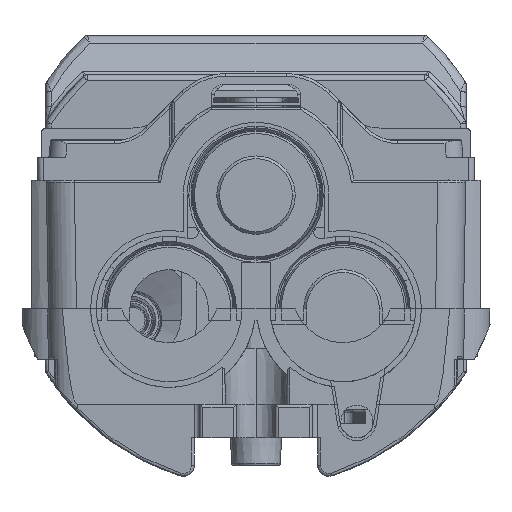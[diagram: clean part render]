
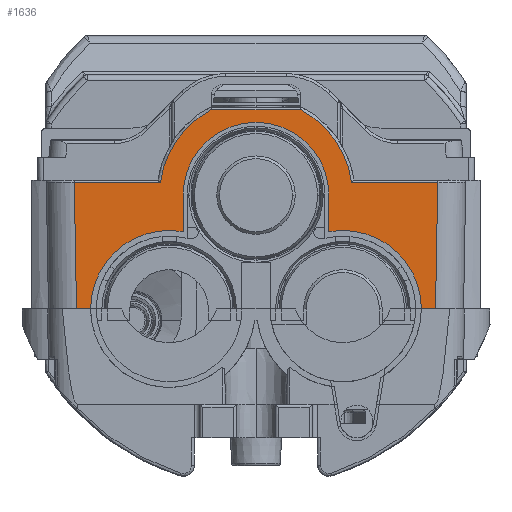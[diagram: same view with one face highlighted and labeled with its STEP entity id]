
A CAD part, left-side view. The second image highlights one B-rep face of the part: STEP entity #1636.
In plain terms, the highlighted planar face has unit normal (-1, 0, 0).
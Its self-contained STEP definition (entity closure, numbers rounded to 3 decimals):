
#584 = CARTESIAN_POINT ( 'NONE',  ( -325.383, -13., 54.3 ) ) ;
#629 = VERTEX_POINT ( 'NONE', #35940 ) ;
#1300 = ORIENTED_EDGE ( 'NONE', *, *, #13953, .T. ) ;
#1361 = ORIENTED_EDGE ( 'NONE', *, *, #15908, .T. ) ;
#1636 = ADVANCED_FACE ( 'NONE', ( #2152 ), #48414, .F. ) ;
#1878 = CIRCLE ( 'NONE', #2971, 14. ) ;
#1920 = ORIENTED_EDGE ( 'NONE', *, *, #13570, .T. ) ;
#2152 = FACE_OUTER_BOUND ( 'NONE', #25963, .T. ) ;
#2971 = AXIS2_PLACEMENT_3D ( 'NONE', #43110, #17925, #47167 ) ;
#6334 = DIRECTION ( 'NONE',  ( 0., 1., 0. ) ) ;
#6363 = CARTESIAN_POINT ( 'NONE',  ( -325.383, 37.029, 34. ) ) ;
#6385 = CIRCLE ( 'NONE', #13824, 17.2 ) ;
#7000 = CARTESIAN_POINT ( 'NONE',  ( -325.383, 0., 54.3 ) ) ;
#7769 = VERTEX_POINT ( 'NONE', #48519 ) ;
#8343 = EDGE_CURVE ( 'NONE', #7769, #24974, #27695, .T. ) ;
#9199 = VERTEX_POINT ( 'NONE', #37219 ) ;
#9380 = EDGE_CURVE ( 'NONE', #52580, #7769, #32947, .T. ) ;
#9964 = CARTESIAN_POINT ( 'NONE',  ( -325.383, -17.059, 56.5 ) ) ;
#10254 = CARTESIAN_POINT ( 'NONE',  ( -325.383, -32.74, 74.782 ) ) ;
#10402 = DIRECTION ( 'NONE',  ( -1., 0., 0. ) ) ;
#11083 = CARTESIAN_POINT ( 'NONE',  ( -325.383, -13., 54.3 ) ) ;
#11578 = DIRECTION ( 'NONE',  ( 0., 0., -1. ) ) ;
#11604 = CARTESIAN_POINT ( 'NONE',  ( -325.383, 32.762, 76.074 ) ) ;
#11785 = DIRECTION ( 'NONE',  ( 0., -0.017, -1. ) ) ;
#11929 = CARTESIAN_POINT ( 'NONE',  ( -325.383, 8.05, 69.5 ) ) ;
#12292 = CIRCLE ( 'NONE', #45615, 14. ) ;
#13570 = EDGE_CURVE ( 'NONE', #24974, #35626, #16326, .T. ) ;
#13740 = EDGE_CURVE ( 'NONE', #28091, #24337, #1878, .T. ) ;
#13810 = EDGE_CURVE ( 'NONE', #24337, #49829, #29768, .T. ) ;
#13823 = EDGE_CURVE ( 'NONE', #28091, #52580, #51800, .T. ) ;
#13824 = AXIS2_PLACEMENT_3D ( 'NONE', #7000, #37020, #11578 ) ;
#13932 = DIRECTION ( 'NONE',  ( 0., 0., 1. ) ) ;
#13953 = EDGE_CURVE ( 'NONE', #46712, #9199, #38237, .T. ) ;
#14123 = EDGE_CURVE ( 'NONE', #33833, #629, #19034, .T. ) ;
#14288 = VECTOR ( 'NONE', #6334, 1000. ) ;
#15438 = CARTESIAN_POINT ( 'NONE',  ( -325.383, 32.421, 56.5 ) ) ;
#15908 = EDGE_CURVE ( 'NONE', #17796, #46712, #20225, .T. ) ;
#16326 = CIRCLE ( 'NONE', #21687, 17.2 ) ;
#17104 = EDGE_CURVE ( 'NONE', #38619, #22537, #6385, .T. ) ;
#17618 = CARTESIAN_POINT ( 'NONE',  ( -325.383, 13., 54.3 ) ) ;
#17796 = VERTEX_POINT ( 'NONE', #15438 ) ;
#17925 = DIRECTION ( 'NONE',  ( -1., 0., 0. ) ) ;
#18185 = ORIENTED_EDGE ( 'NONE', *, *, #13740, .F. ) ;
#18292 = DIRECTION ( 'NONE',  ( 0., -1., 0. ) ) ;
#18393 = VECTOR ( 'NONE', #13932, 1000. ) ;
#19034 = LINE ( 'NONE', #25978, #20378 ) ;
#19554 = CARTESIAN_POINT ( 'NONE',  ( -325.383, 37.029, 69.5 ) ) ;
#19828 = CARTESIAN_POINT ( 'NONE',  ( -325.383, 37.029, 56.5 ) ) ;
#19957 = ORIENTED_EDGE ( 'NONE', *, *, #35020, .F. ) ;
#20225 = LINE ( 'NONE', #11604, #36809 ) ;
#20378 = VECTOR ( 'NONE', #55339, 1000. ) ;
#20655 = ORIENTED_EDGE ( 'NONE', *, *, #34958, .F. ) ;
#21003 = EDGE_CURVE ( 'NONE', #35626, #38619, #46507, .T. ) ;
#21088 = VECTOR ( 'NONE', #18292, 1000. ) ;
#21253 = CARTESIAN_POINT ( 'NONE',  ( -325.383, -32.028, 34. ) ) ;
#21565 = ORIENTED_EDGE ( 'NONE', *, *, #9380, .T. ) ;
#21614 = VECTOR ( 'NONE', #23194, 1000. ) ;
#21687 = AXIS2_PLACEMENT_3D ( 'NONE', #25305, #54614, #29537 ) ;
#22219 = DIRECTION ( 'NONE',  ( -1., 0., 0. ) ) ;
#22371 = ORIENTED_EDGE ( 'NONE', *, *, #13810, .F. ) ;
#22445 = CARTESIAN_POINT ( 'NONE',  ( -325.383, -13., 47.775 ) ) ;
#22537 = VERTEX_POINT ( 'NONE', #52096 ) ;
#22609 = CARTESIAN_POINT ( 'NONE',  ( -325.383, 37.029, 56.5 ) ) ;
#23194 = DIRECTION ( 'NONE',  ( 0., -0.017, 1. ) ) ;
#23497 = CARTESIAN_POINT ( 'NONE',  ( -325.383, -29.5, 34. ) ) ;
#24060 = EDGE_CURVE ( 'NONE', #22537, #17796, #46968, .T. ) ;
#24337 = VERTEX_POINT ( 'NONE', #22445 ) ;
#24939 = VECTOR ( 'NONE', #28226, 1000. ) ;
#24974 = VERTEX_POINT ( 'NONE', #9964 ) ;
#25305 = CARTESIAN_POINT ( 'NONE',  ( -325.383, 0., 54.3 ) ) ;
#25963 = EDGE_LOOP ( 'NONE', ( #36668, #49354, #1361, #1300, #19957, #40362, #20655, #22371, #18185, #45158, #21565, #35568, #1920, #50968 ) ) ;
#25978 = CARTESIAN_POINT ( 'NONE',  ( -325.383, 13., 54.3 ) ) ;
#27695 = LINE ( 'NONE', #22609, #49679 ) ;
#28091 = VERTEX_POINT ( 'NONE', #23497 ) ;
#28226 = DIRECTION ( 'NONE',  ( 0., 1., 0. ) ) ;
#29537 = DIRECTION ( 'NONE',  ( 0., 0., -1. ) ) ;
#29768 = LINE ( 'NONE', #584, #18393 ) ;
#31888 = AXIS2_PLACEMENT_3D ( 'NONE', #47114, #22219, #51383 ) ;
#32739 = CARTESIAN_POINT ( 'NONE',  ( -325.383, -8.05, 69.5 ) ) ;
#32947 = LINE ( 'NONE', #10254, #21614 ) ;
#33833 = VERTEX_POINT ( 'NONE', #17618 ) ;
#34958 = EDGE_CURVE ( 'NONE', #49829, #33833, #48381, .T. ) ;
#35020 = EDGE_CURVE ( 'NONE', #629, #9199, #12292, .T. ) ;
#35568 = ORIENTED_EDGE ( 'NONE', *, *, #8343, .T. ) ;
#35626 = VERTEX_POINT ( 'NONE', #32739 ) ;
#35903 = CARTESIAN_POINT ( 'NONE',  ( -325.383, 15.5, 34. ) ) ;
#35940 = CARTESIAN_POINT ( 'NONE',  ( -325.383, 13., 47.775 ) ) ;
#36668 = ORIENTED_EDGE ( 'NONE', *, *, #17104, .T. ) ;
#36809 = VECTOR ( 'NONE', #11785, 1000. ) ;
#36815 = DIRECTION ( 'NONE',  ( 0., -1., 0. ) ) ;
#36956 = VECTOR ( 'NONE', #36815, 1000. ) ;
#37020 = DIRECTION ( 'NONE',  ( -1., 0., 0. ) ) ;
#37219 = CARTESIAN_POINT ( 'NONE',  ( -325.383, 29.5, 34. ) ) ;
#38237 = LINE ( 'NONE', #6363, #36956 ) ;
#38619 = VERTEX_POINT ( 'NONE', #11929 ) ;
#40006 = DIRECTION ( 'NONE',  ( 0., -1., 0. ) ) ;
#40362 = ORIENTED_EDGE ( 'NONE', *, *, #14123, .F. ) ;
#43110 = CARTESIAN_POINT ( 'NONE',  ( -325.383, -15.5, 34. ) ) ;
#43636 = DIRECTION ( 'NONE',  ( 1., 0., 0. ) ) ;
#43904 = DIRECTION ( 'NONE',  ( 0., 0., -1. ) ) ;
#45158 = ORIENTED_EDGE ( 'NONE', *, *, #13823, .T. ) ;
#45615 = AXIS2_PLACEMENT_3D ( 'NONE', #35903, #10402, #40006 ) ;
#46507 = LINE ( 'NONE', #19554, #14288 ) ;
#46712 = VERTEX_POINT ( 'NONE', #54882 ) ;
#46968 = LINE ( 'NONE', #19828, #24939 ) ;
#47114 = CARTESIAN_POINT ( 'NONE',  ( -325.383, 0., 54.3 ) ) ;
#47167 = DIRECTION ( 'NONE',  ( 0., -1., 0. ) ) ;
#47519 = CARTESIAN_POINT ( 'NONE',  ( -325.383, 37.029, 34. ) ) ;
#47701 = CARTESIAN_POINT ( 'NONE',  ( -325.383, 37.029, 76. ) ) ;
#48381 = CIRCLE ( 'NONE', #31888, 13. ) ;
#48414 = PLANE ( 'NONE',  #50482 ) ;
#48519 = CARTESIAN_POINT ( 'NONE',  ( -325.383, -32.421, 56.5 ) ) ;
#49354 = ORIENTED_EDGE ( 'NONE', *, *, #24060, .T. ) ;
#49679 = VECTOR ( 'NONE', #51743, 1000. ) ;
#49829 = VERTEX_POINT ( 'NONE', #11083 ) ;
#50482 = AXIS2_PLACEMENT_3D ( 'NONE', #47701, #43636, #43904 ) ;
#50968 = ORIENTED_EDGE ( 'NONE', *, *, #21003, .T. ) ;
#51383 = DIRECTION ( 'NONE',  ( 0., -1., 0. ) ) ;
#51743 = DIRECTION ( 'NONE',  ( 0., 1., 0. ) ) ;
#51800 = LINE ( 'NONE', #47519, #21088 ) ;
#52096 = CARTESIAN_POINT ( 'NONE',  ( -325.383, 17.059, 56.5 ) ) ;
#52580 = VERTEX_POINT ( 'NONE', #21253 ) ;
#54614 = DIRECTION ( 'NONE',  ( -1., 0., 0. ) ) ;
#54882 = CARTESIAN_POINT ( 'NONE',  ( -325.383, 32.028, 34. ) ) ;
#55339 = DIRECTION ( 'NONE',  ( 0., 0., -1. ) ) ;
